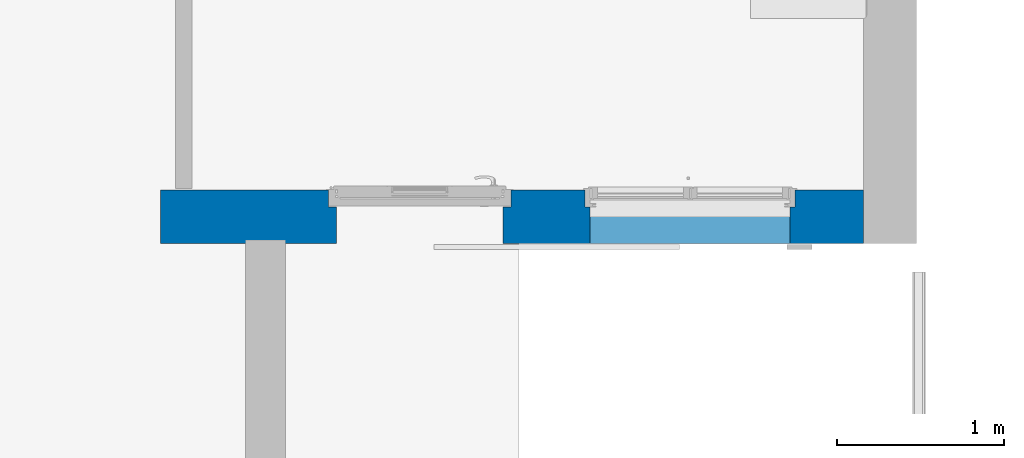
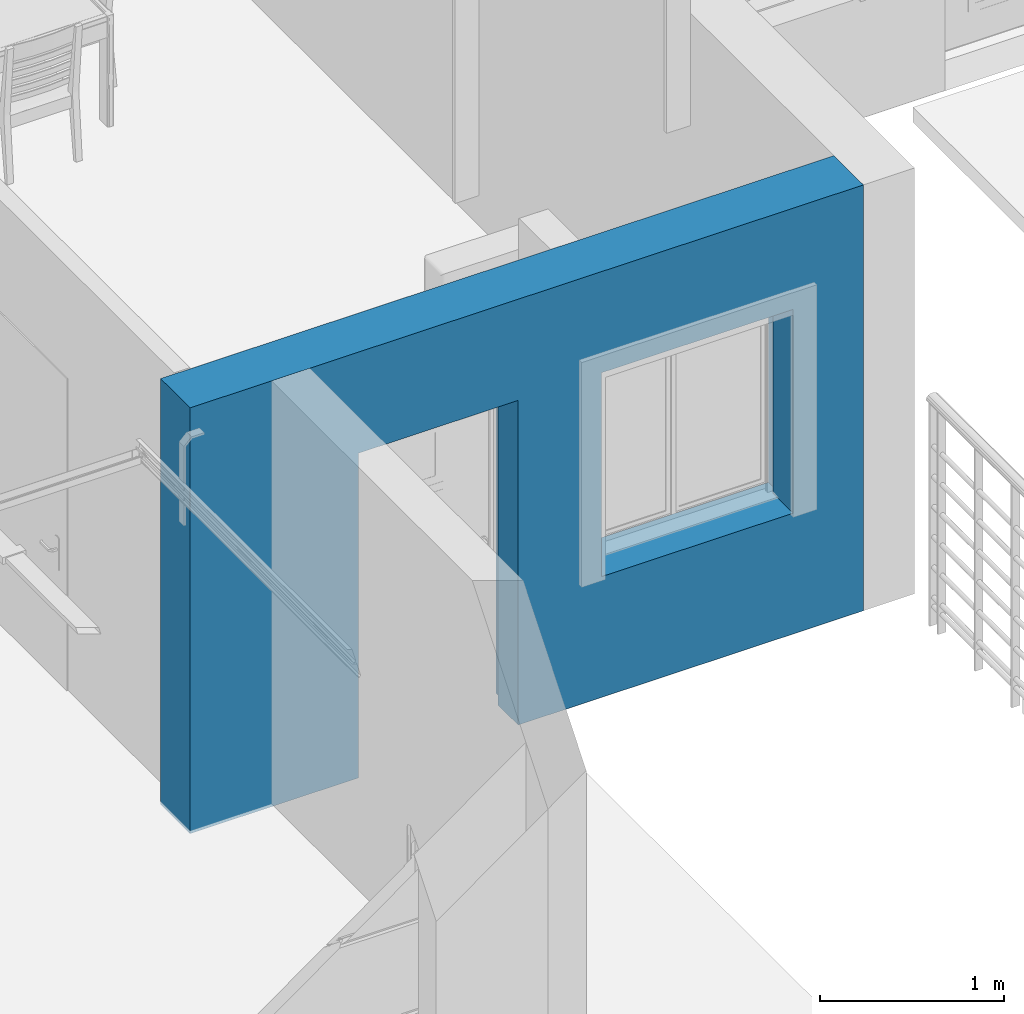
# One storey, part 8 of 30: 1 wall, 2 openings.
"""IFC2X3 building model written with IfcOpenShell, lengths in metres."""

from ifc_helpers import new_model, entity, si_unit, converted_unit, derived_unit, direction, frame, frame_2d, origin, place, context, subcontext, project, spatial, rectangle, extrude, faceted_brep, material, layer, layer_set, layer_usage, type_object, element, save


model = new_model("IFC2X3")

# Units and contexts
model_context = context("Model", 3, precision=1e-05, world=origin(), true_north=direction((6.12303176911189e-17, 1.0)))
body_context = subcontext(model_context, "Body", "Model", "MODEL_VIEW")
ifc_project = project(units=[si_unit("LENGTHUNIT", "METRE"), si_unit("AREAUNIT", "SQUARE_METRE"), si_unit("VOLUMEUNIT", "CUBIC_METRE"), converted_unit("PLANEANGLEUNIT", "DEGREE", entity("IfcRatioMeasure", 0.0174532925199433), si_unit("PLANEANGLEUNIT", "RADIAN"), dimensions=[0, 0, 0, 0, 0, 0, 0]), si_unit("MASSUNIT", "GRAM", prefix="KILO"), derived_unit("MASSDENSITYUNIT", [(si_unit("MASSUNIT", "GRAM", prefix="KILO"), 1), (si_unit("LENGTHUNIT", "METRE"), -3)]), si_unit("TIMEUNIT", "SECOND"), si_unit("FREQUENCYUNIT", "HERTZ"), si_unit("THERMODYNAMICTEMPERATUREUNIT", "DEGREE_CELSIUS"), derived_unit("THERMALTRANSMITTANCEUNIT", [(si_unit("MASSUNIT", "GRAM", prefix="KILO"), 1), (si_unit("THERMODYNAMICTEMPERATUREUNIT", "KELVIN"), -1), (si_unit("TIMEUNIT", "SECOND"), -3)]), derived_unit("VOLUMETRICFLOWRATEUNIT", [(si_unit("LENGTHUNIT", "METRE"), 3), (si_unit("TIMEUNIT", "SECOND"), -1)]), si_unit("ELECTRICCURRENTUNIT", "AMPERE"), si_unit("ELECTRICVOLTAGEUNIT", "VOLT"), si_unit("POWERUNIT", "WATT"), si_unit("FORCEUNIT", "NEWTON", prefix="KILO"), si_unit("ILLUMINANCEUNIT", "LUX"), si_unit("LUMINOUSFLUXUNIT", "LUMEN"), si_unit("LUMINOUSINTENSITYUNIT", "CANDELA"), derived_unit("USERDEFINED", [(si_unit("MASSUNIT", "GRAM", prefix="KILO"), -1), (si_unit("LENGTHUNIT", "METRE"), -2), (si_unit("TIMEUNIT", "SECOND"), 3), (si_unit("LUMINOUSFLUXUNIT", "LUMEN"), 1)]), derived_unit("LINEARVELOCITYUNIT", [(si_unit("LENGTHUNIT", "METRE"), 1), (si_unit("TIMEUNIT", "SECOND"), -1)]), si_unit("PRESSUREUNIT", "PASCAL"), derived_unit("USERDEFINED", [(si_unit("LENGTHUNIT", "METRE"), -2), (si_unit("MASSUNIT", "GRAM", prefix="KILO"), 1), (si_unit("TIMEUNIT", "SECOND"), -2)])], contexts=[model_context])

# Site, building, storey
site_placement = place(None, origin())
site = spatial("IfcSite", under=ifc_project, at=site_placement, Name="Surface", CompositionType="ELEMENT")
building_placement = place(site_placement, origin())
building = spatial("IfcBuilding", under=site, at=building_placement, CompositionType="ELEMENT")
storey_placement = place(building_placement, origin())
storey = spatial("IfcBuildingStorey", under=building, at=storey_placement, Name="Plan des fondations  Maisons 1 et 2", CompositionType="ELEMENT", Elevation=0.0)

# Wall, openings
ifc_material_1 = material(Name="Enduit blanc cassé2")
ifc_layer_1 = layer(ifc_material_1, 0.02)
ifc_material_2 = material(Name="Parpaing")
ifc_layer_2 = layer(ifc_material_2, 0.2)
ifc_material_3 = material(Name="Isolant")
ifc_layer_3 = layer(ifc_material_3, 0.1)
ifc_layer_set = layer_set([ifc_layer_1, ifc_layer_2, ifc_layer_3], Name="Mur de base:Ext. Parpaing 20 + Isolant 10 enduit blanc cassé")
ifc_layer_usage = layer_usage(ifc_layer_set, "AXIS2", "NEGATIVE", 0.16)
wall_type = type_object("IfcWallType", Name="Mur de base:Ext. Parpaing 20 + Isolant 10 enduit blanc cassé", PredefinedType="STANDARD", material=ifc_layer_set)
wall_placement = place(storey_placement, frame((75.962889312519, 80.0477566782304, 0.0), z_axis=(0.0, 0.0, 1.0), x_axis=(-1.0, 0.0, 0.0)))
wall = element("IfcWallStandardCase", 1, at=wall_placement, inside=storey, type_object=wall_type, material=ifc_layer_usage, Name="Mur de base:Ext. Parpaing 20 + Isolant 10 enduit blanc cassé", ObjectType="Mur de base:Ext. Parpaing 20 + Isolant 10 enduit blanc cassé", context=body_context, shape_type="SweptSolid", body=[
    extrude(rectangle(XDim=4.21826294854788, YDim=0.319999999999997, at=frame_2d((2.10913147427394, 5.55111512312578e-16), x_axis=(-1.0, 0.0))), origin(), (0.0, 0.0, 1.0), 2.82),
])
opening_1_placement = place(wall_placement, frame((3.21076358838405, 0.160000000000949, 0.0), z_axis=(0.0, 0.0, 1.0), x_axis=(-1.0, 0.0, 0.0)))
element("IfcOpeningElement", 2, at=opening_1_placement, cuts=wall, Name="Mur de base:Ext. Parpaing 20 + Isolant 10 enduit blanc cassé", ObjectType="Opening", context=body_context, shape_type="Brep", body=[
    faceted_brep([(0.0, 0.320000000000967, 0.0), (0.0, 0.320000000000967, 2.19749999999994), (1.0950012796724, 0.320000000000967, 2.19749999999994), (1.0950012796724, 0.320000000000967, 0.0), (0.0475006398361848, 0.0, 2.15), (0.0475006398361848, 0.0, 0.0), (1.04750063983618, 0.0, 0.0), (1.04750063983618, 0.0, 2.15), (1.04750063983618, 0.220000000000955, 2.15), (0.0475006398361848, 0.220000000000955, 2.15), (1.04750063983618, 0.220000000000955, 0.0), (0.0475006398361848, 0.220000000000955, 0.0), (0.0, 0.220000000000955, 0.0), (1.0950012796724, 0.220000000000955, 0.0), (0.0, 0.220000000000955, 2.19749999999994), (1.0950012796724, 0.220000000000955, 2.19749999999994)], [[[0, 1, 2, 3]], [[4, 5, 6, 7]], [[7, 8, 9, 4]], [[6, 10, 8, 7]], [[5, 11, 12, 0, 3, 13, 10, 6]], [[4, 9, 11, 5]], [[1, 14, 15, 2]], [[14, 12, 11, 9, 8, 10, 13, 15]], [[13, 3, 2, 15]], [[0, 12, 14, 1]]]),
])
opening_2_placement = place(wall_placement, frame((1.68000000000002, 0.46000000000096, 0.799999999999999), z_axis=(0.0, 0.0, 1.0), x_axis=(-1.0, 0.0, 0.0)))
element("IfcOpeningElement", 3, at=opening_2_placement, cuts=wall, Name="Mur de base:Ext. Parpaing 20 + Isolant 10 enduit blanc cassé", ObjectType="Opening", context=body_context, shape_type="Brep", body=[
    faceted_brep([(0.0400000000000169, 0.720000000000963, 1.35), (0.0400000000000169, 0.620000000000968, 1.35), (1.24000000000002, 0.620000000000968, 1.35), (1.24000000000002, 0.720000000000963, 1.35), (0.0400000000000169, 0.0, 0.0), (0.0400000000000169, 0.520000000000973, 0.0), (0.0100000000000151, 0.520000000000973, 0.0), (0.0100000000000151, 0.620000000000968, 0.0), (0.0400000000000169, 0.620000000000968, 0.0), (0.0400000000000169, 0.720000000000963, 0.0), (1.24000000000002, 0.720000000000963, 0.0), (1.24000000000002, 0.620000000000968, 0.0), (1.27000000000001, 0.620000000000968, 0.0), (1.27000000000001, 0.520000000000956, 0.0), (1.24000000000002, 0.520000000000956, 0.0), (1.24000000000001, 0.0, 0.0), (0.0400000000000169, 0.0, 1.35), (1.24000000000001, 0.0, 1.35), (0.0400000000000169, 0.520000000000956, 1.35), (0.0100000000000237, 0.620000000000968, 1.38), (0.0, 0.620000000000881, 1.38000000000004), (0.0, 0.620000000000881, 1.59000000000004), (1.28000000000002, 0.620000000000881, 1.59000000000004), (1.28000000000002, 0.620000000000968, 1.38000000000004), (1.27000000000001, 0.620000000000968, 1.38), (1.27000000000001, 0.520000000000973, 1.38), (1.28000000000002, 0.520000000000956, 1.38000000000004), (1.28000000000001, 0.520000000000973, 1.59000000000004), (0.0, 0.520000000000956, 1.59000000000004), (0.0, 0.520000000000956, 1.38000000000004), (0.0100000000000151, 0.520000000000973, 1.38), (1.24000000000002, 0.520000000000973, 1.35)], [[[0, 1, 2, 3]], [[4, 5, 6, 7, 8, 9, 10, 11, 12, 13, 14, 15]], [[16, 4, 15, 17]], [[3, 2, 11, 10]], [[3, 10, 9, 0]], [[16, 18, 5, 4]], [[11, 2, 1, 8, 7, 19, 20, 21, 22, 23, 24, 12]], [[12, 24, 25, 13]], [[13, 25, 26, 27, 28, 29, 30, 6, 5, 18, 31, 14]], [[7, 6, 30, 19]], [[26, 23, 22, 27]], [[29, 28, 21, 20]], [[26, 25, 24, 23]], [[22, 21, 28, 27]], [[20, 19, 30, 29]], [[9, 8, 1, 0]], [[15, 14, 31, 17]], [[17, 31, 18, 16]]]),
])

save(model, "model.ifc")
